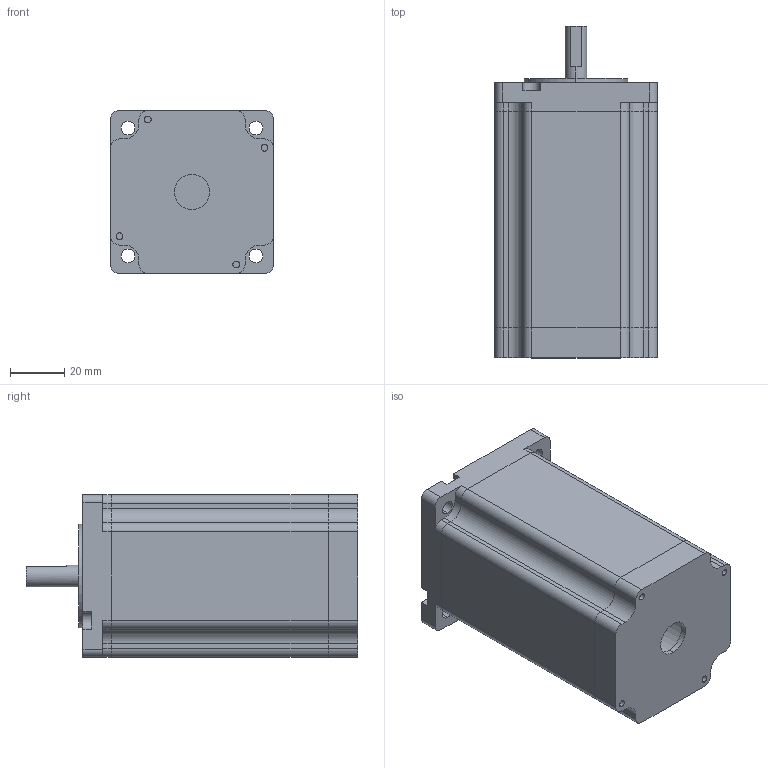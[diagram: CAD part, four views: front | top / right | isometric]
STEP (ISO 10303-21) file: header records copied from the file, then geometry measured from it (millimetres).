
FILE_DESCRIPTION (( 'STEP AP214' ), '1' );
FILE_NAME ('60A4-57£¨D57HS102-D0821-011£©.STEP', '2020-06-02T02:07:19', ( 'wimxt.com' ), ( 'wimxt.com' ), 'SwSTEP 2.0', 'SolidWorks 2014', '' );
FILE_SCHEMA (( 'AUTOMOTIVE_DESIGN' ));
Length unit declared in the file: millimetre
Products named in the file (4): 60A3-57傷裔; 60A3菁釱; 60A3隅赽; 60A4-57（D57HS102-D0821-011）
Assembly tree (3 placements, depth 2):
  60A4-57（D57HS102-D0821-011）
    60A3隅赽
    60A3菁釱
    60A3-57傷裔
Bounding box: 60 x 122.5 x 60 mm (x, y, z)
Volume: 142412 mm3; surface area: 63601.2 mm2
Topology: 3 solids, 3 shells, 251 faces, 682 edges, 455 vertices
Faces by surface type: plane 130, cylinder 121
Entity records: 8302 total; most frequent: DIRECTION 1449, CARTESIAN_POINT 1394, ORIENTED_EDGE 1364, EDGE_CURVE 682, AXIS2_PLACEMENT_3D 510, VERTEX_POINT 455, LINE 429, VECTOR 429
